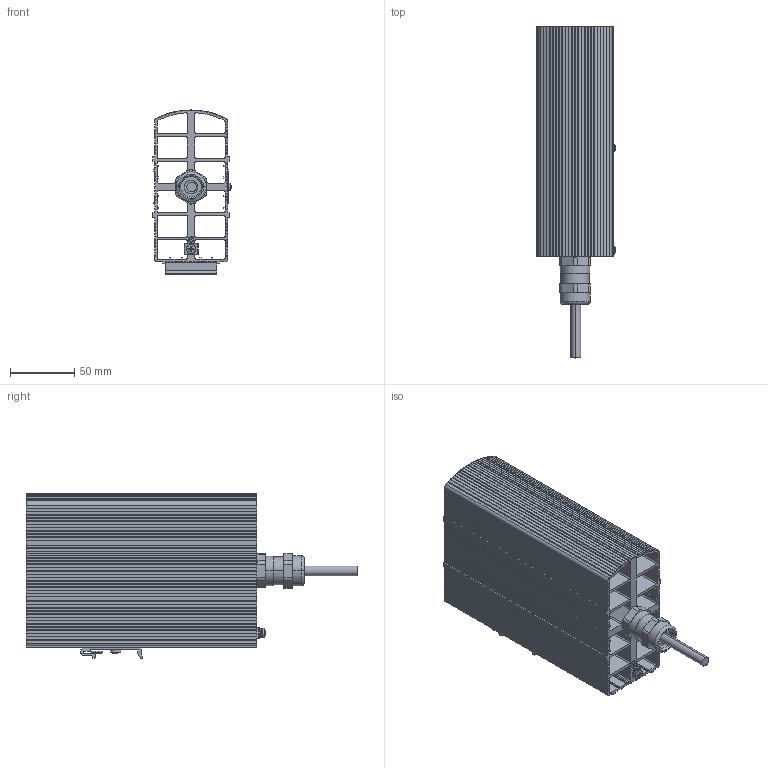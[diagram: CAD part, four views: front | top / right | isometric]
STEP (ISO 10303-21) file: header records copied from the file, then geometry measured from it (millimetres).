
FILE_DESCRIPTION (( 'STEP AP214' ), '1' );
FILE_NAME ('02042.x-0x_Ex-Heizgeraet.STEP', '2017-08-09T09:07:19', ( '' ), ( '' ), 'SwSTEP 2.0', 'SolidWorks 2017', '' );
FILE_SCHEMA (( 'AUTOMOTIVE_DESIGN' ));
Length unit declared in the file: millimetre
Products named in the file (1): 02042.x-0x_Ex-Heizgeraet
Bounding box: 61.42 x 259 x 128 mm (x, y, z)
Surface area: 262841.8 mm2 (no closed solid volume)
Topology: 0 solids, 15 shells, 780 faces, 2703 edges, 1828 vertices
Faces by surface type: plane 562, cylinder 155, cone 36, torus 18, sphere 8, bspline 1
Entity records: 37727 total; most frequent: CARTESIAN_POINT 5957, ORIENTED_EDGE 4759, DIRECTION 4605, EDGE_CURVE 2703, LINE 2119, VECTOR 2119, VERTEX_POINT 1828, AXIS2_PLACEMENT_3D 1243
